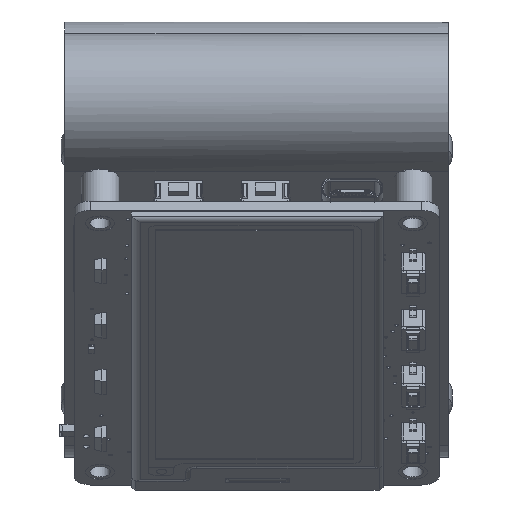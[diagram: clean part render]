
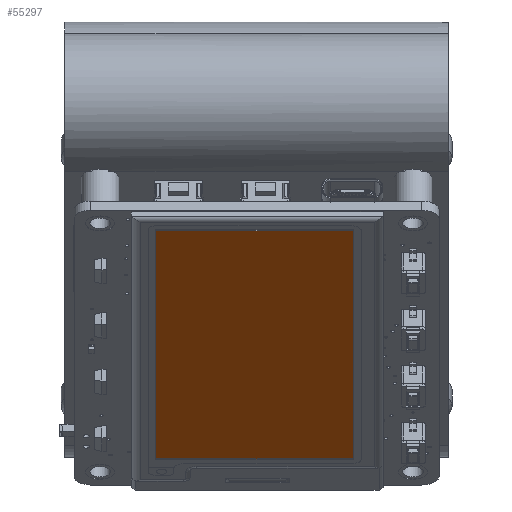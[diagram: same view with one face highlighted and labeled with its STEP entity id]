
A CAD part, top view. The second image highlights one B-rep face of the part: STEP entity #55297.
In plain terms, the highlighted planar face has unit normal (0, -0.866, 0.5) as drawn and (0, 0, -1) by its records, which use the part's own axes.
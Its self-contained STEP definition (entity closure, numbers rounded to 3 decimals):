
#4810=PLANE('',#60034);
#7772=FACE_OUTER_BOUND('',#11076,.T.);
#11076=EDGE_LOOP('',(#51682,#51683,#51684,#51685));
#17008=LINE('',#92908,#22944);
#17011=LINE('',#92914,#22947);
#17014=LINE('',#92920,#22950);
#17017=LINE('',#92924,#22953);
#22944=VECTOR('',#74766,10.);
#22947=VECTOR('',#74771,10.);
#22950=VECTOR('',#74776,10.);
#22953=VECTOR('',#74781,10.);
#29183=VERTEX_POINT('',#92905);
#29184=VERTEX_POINT('',#92907);
#29186=VERTEX_POINT('',#92913);
#29188=VERTEX_POINT('',#92919);
#36680=EDGE_CURVE('',#29184,#29183,#17008,.T.);
#36683=EDGE_CURVE('',#29186,#29184,#17011,.T.);
#36686=EDGE_CURVE('',#29188,#29186,#17014,.T.);
#36689=EDGE_CURVE('',#29183,#29188,#17017,.T.);
#51682=ORIENTED_EDGE('',*,*,#36689,.T.);
#51683=ORIENTED_EDGE('',*,*,#36686,.T.);
#51684=ORIENTED_EDGE('',*,*,#36683,.T.);
#51685=ORIENTED_EDGE('',*,*,#36680,.T.);
#55297=ADVANCED_FACE('',(#7772),#4810,.T.);
#60034=AXIS2_PLACEMENT_3D('',#92925,#74782,#74783);
#74766=DIRECTION('',(0.,1.,0.));
#74771=DIRECTION('',(-1.,0.,0.));
#74776=DIRECTION('',(0.,-1.,0.));
#74781=DIRECTION('',(1.,0.,0.));
#74782=DIRECTION('center_axis',(0.,0.,-1.));
#74783=DIRECTION('ref_axis',(-1.,0.,0.));
#92905=CARTESIAN_POINT('',(3.514,41.412,-1.37));
#92907=CARTESIAN_POINT('',(3.514,12.536,-1.37));
#92908=CARTESIAN_POINT('',(3.514,12.536,-1.37));
#92913=CARTESIAN_POINT('',(70.096,12.536,-1.37));
#92914=CARTESIAN_POINT('',(70.096,12.536,-1.37));
#92919=CARTESIAN_POINT('',(70.096,41.412,-1.37));
#92920=CARTESIAN_POINT('',(70.096,41.412,-1.37));
#92924=CARTESIAN_POINT('',(3.514,41.412,-1.37));
#92925=CARTESIAN_POINT('Origin',(36.805,26.974,-1.37));
